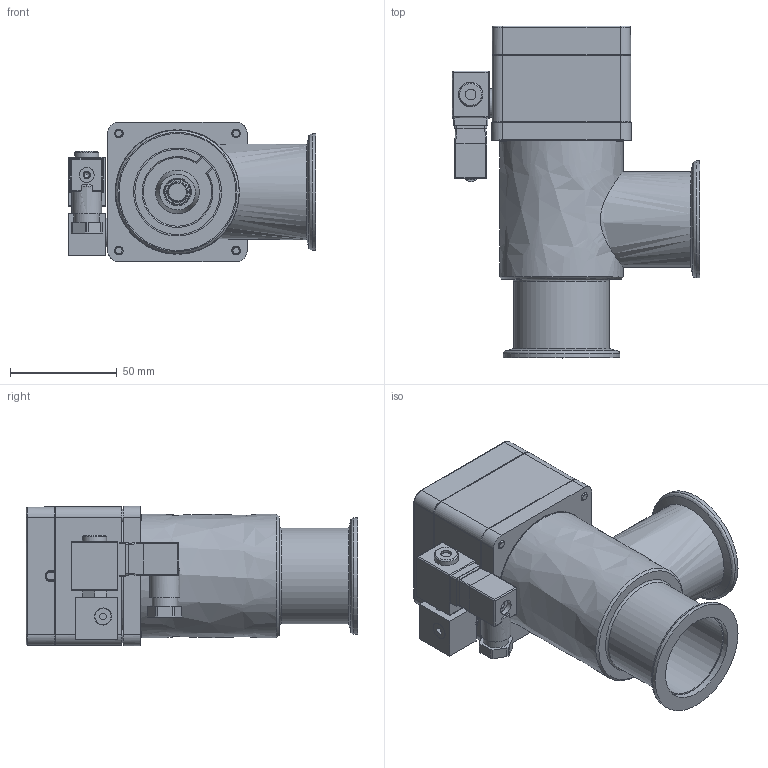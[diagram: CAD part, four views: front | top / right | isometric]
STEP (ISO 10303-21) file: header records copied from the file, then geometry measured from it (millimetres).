
FILE_DESCRIPTION((''),'2;1');
FILE_NAME('O:\MT\MT\Systeme\Cad\Datenexporte\www_vat_ch\246958.stp','2004-06-25T10:02:20',('User'),('SDRC'),'I-DEAS Master Series 9','UNIX','Yes');
FILE_SCHEMA(('CONFIG_CONTROL_DESIGN'));
Length unit declared in the file: millimetre
Assembly tree (17 placements, depth 0):
Bounding box: 116.35 x 155.7 x 65.4 mm (x, y, z)
Volume: 118258 mm3; surface area: 123991.6 mm2
Topology: 13 solids, 16 shells, 701 faces, 1737 edges, 1132 vertices
Faces by surface type: bspline 701
Entity records: 23103 total; most frequent: CARTESIAN_POINT 11610, ORIENTED_EDGE 3182, EDGE_CURVE 1591, VERTEX_POINT 1024, EDGE_LOOP 744, FACE_OUTER_BOUND 644, ADVANCED_FACE 644, B_SPLINE_CURVE_WITH_KNOTS 604
